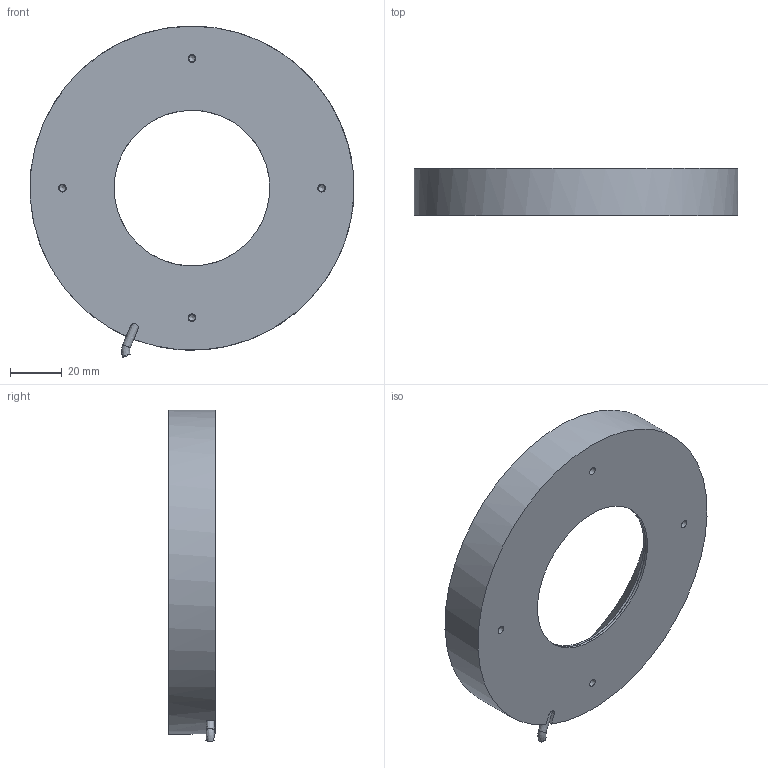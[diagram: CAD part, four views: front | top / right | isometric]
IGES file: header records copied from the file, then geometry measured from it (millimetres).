
Global section: file name: 153-00736_LR 100 xD-24-KFL5; native system: Autodesk Inventor 2018; preprocessor: unknown; author: ss; date: 20180726.095036; units: millimetre
Bounding box: 124.89 x 18 x 127.99 mm (x, y, z)
Volume: 134588.8 mm3; surface area: 53569.6 mm2
Topology: 2 solids, 2 shells, 62 faces, 168 edges, 122 vertices
Faces by surface type: bspline 62
